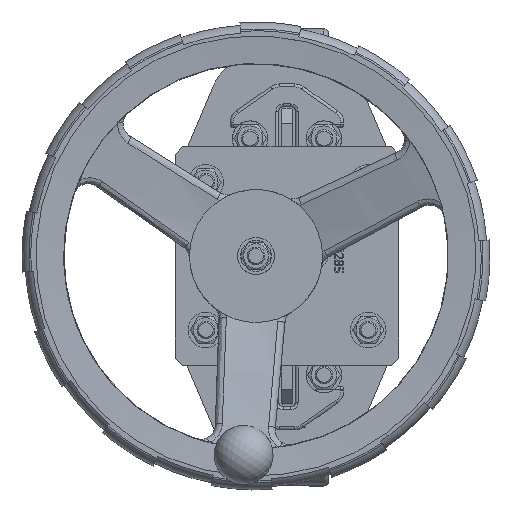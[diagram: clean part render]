
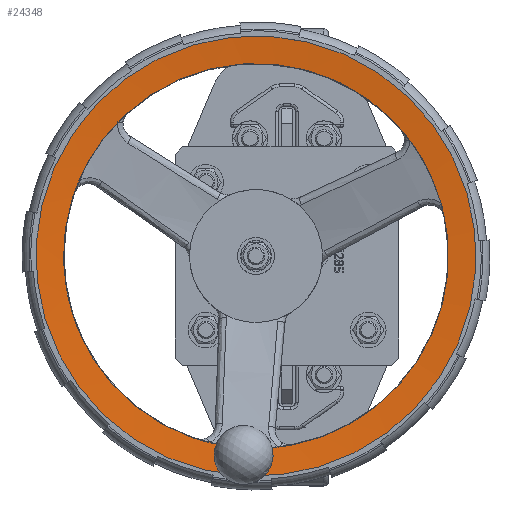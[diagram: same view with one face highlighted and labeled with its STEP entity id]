
A CAD part, top view. The second image highlights one B-rep face of the part: STEP entity #24348.
In plain terms, the highlighted conical face has half-angle 85 degrees and reference radius 139.655 mm.
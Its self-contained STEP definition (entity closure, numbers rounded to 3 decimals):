
#902=CONICAL_SURFACE('',#26106,139.654,1.484);
#1210=CIRCLE('',#26095,147.454);
#1214=CIRCLE('',#26107,130.309);
#1215=CIRCLE('',#26108,149.);
#1216=CIRCLE('',#26109,149.);
#1217=CIRCLE('',#26110,130.309);
#2709=(
BOUNDED_CURVE()
B_SPLINE_CURVE(2,(#39997,#39998,#39999),.UNSPECIFIED.,.F.,.F.)
B_SPLINE_CURVE_WITH_KNOTS((3,3),(30.11,30.242),
 .UNSPECIFIED.)
CURVE()
GEOMETRIC_REPRESENTATION_ITEM()
RATIONAL_B_SPLINE_CURVE((1.105,1.066,1.026))
REPRESENTATION_ITEM('')
);
#2710=(
BOUNDED_CURVE()
B_SPLINE_CURVE(2,(#40059,#40060,#40061),.UNSPECIFIED.,.F.,.F.)
B_SPLINE_CURVE_WITH_KNOTS((3,3),(0.043,0.176),
 .UNSPECIFIED.)
CURVE()
GEOMETRIC_REPRESENTATION_ITEM()
RATIONAL_B_SPLINE_CURVE((1.026,1.066,1.105))
REPRESENTATION_ITEM('')
);
#3023=FACE_OUTER_BOUND('',#4549,.T.);
#4549=EDGE_LOOP('',(#17126,#17127,#17128,#17129,#17130,#17131,#17132,#17133,
#17134,#17135,#17136));
#6068=B_SPLINE_CURVE_WITH_KNOTS('',3,(#39915,#39916,#39917,#39918,#39919,
#39920,#39921),.UNSPECIFIED.,.F.,.F.,(4,3,4),(-0.377,0.,0.165),
 .UNSPECIFIED.);
#6071=B_SPLINE_CURVE_WITH_KNOTS('',3,(#39932,#39933,#39934,#39935,#39936,
#39937),.UNSPECIFIED.,.F.,.F.,(4,2,4),(4.701,4.866,
5.243),.UNSPECIFIED.);
#6707=LINE('',#40066,#8323);
#8323=VECTOR('',#29860,139.654);
#10197=VERTEX_POINT('',#39864);
#10198=VERTEX_POINT('',#39865);
#10207=VERTEX_POINT('',#39913);
#10208=VERTEX_POINT('',#39914);
#10209=VERTEX_POINT('',#39926);
#10210=VERTEX_POINT('',#39931);
#10217=VERTEX_POINT('',#40063);
#10218=VERTEX_POINT('',#40065);
#10219=VERTEX_POINT('',#40067);
#12804=EDGE_CURVE('',#10197,#10198,#1210,.T.);
#12815=EDGE_CURVE('',#10207,#10208,#6068,.T.);
#12818=EDGE_CURVE('',#10210,#10209,#6071,.T.);
#12825=EDGE_CURVE('',#10208,#10197,#2709,.T.);
#12831=EDGE_CURVE('',#10198,#10210,#2710,.T.);
#12832=EDGE_CURVE('',#10209,#10217,#1214,.T.);
#12833=EDGE_CURVE('',#10217,#10218,#6707,.T.);
#12834=EDGE_CURVE('',#10219,#10218,#1215,.T.);
#12835=EDGE_CURVE('',#10218,#10219,#1216,.T.);
#12836=EDGE_CURVE('',#10217,#10207,#1217,.T.);
#17126=ORIENTED_EDGE('',*,*,#12815,.T.);
#17127=ORIENTED_EDGE('',*,*,#12825,.T.);
#17128=ORIENTED_EDGE('',*,*,#12804,.T.);
#17129=ORIENTED_EDGE('',*,*,#12831,.T.);
#17130=ORIENTED_EDGE('',*,*,#12818,.T.);
#17131=ORIENTED_EDGE('',*,*,#12832,.T.);
#17132=ORIENTED_EDGE('',*,*,#12833,.T.);
#17133=ORIENTED_EDGE('',*,*,#12834,.F.);
#17134=ORIENTED_EDGE('',*,*,#12835,.F.);
#17135=ORIENTED_EDGE('',*,*,#12833,.F.);
#17136=ORIENTED_EDGE('',*,*,#12836,.T.);
#24348=ADVANCED_FACE('',(#3023),#902,.F.);
#26095=AXIS2_PLACEMENT_3D('',#39866,#29826,#29827);
#26106=AXIS2_PLACEMENT_3D('',#40062,#29856,#29857);
#26107=AXIS2_PLACEMENT_3D('',#40064,#29858,#29859);
#26108=AXIS2_PLACEMENT_3D('',#40068,#29861,#29862);
#26109=AXIS2_PLACEMENT_3D('',#40069,#29863,#29864);
#26110=AXIS2_PLACEMENT_3D('',#40070,#29865,#29866);
#29826=DIRECTION('center_axis',(0.,0.,
-1.));
#29827=DIRECTION('ref_axis',(-0.833,0.553,0.));
#29856=DIRECTION('center_axis',(0.,0.,
1.));
#29857=DIRECTION('ref_axis',(-0.833,0.553,0.));
#29858=DIRECTION('center_axis',(0.,0.,
-1.));
#29859=DIRECTION('ref_axis',(-0.833,0.553,0.));
#29860=DIRECTION('',(0.83,-0.551,0.087));
#29861=DIRECTION('center_axis',(0.,0.,
-1.));
#29862=DIRECTION('ref_axis',(-0.833,0.553,0.));
#29863=DIRECTION('center_axis',(0.,0.,
-1.));
#29864=DIRECTION('ref_axis',(-0.833,0.553,0.));
#29865=DIRECTION('center_axis',(0.,0.,
-1.));
#29866=DIRECTION('ref_axis',(-0.833,0.553,0.));
#39864=CARTESIAN_POINT('',(-15.187,-147.339,559.5));
#39865=CARTESIAN_POINT('',(-45.128,-145.467,559.5));
#39866=CARTESIAN_POINT('Origin',(-21.,0.,
559.5));
#39913=CARTESIAN_POINT('',(-15.137,-130.177,558.));
#39914=CARTESIAN_POINT('',(-14.457,-135.673,558.483));
#39915=CARTESIAN_POINT('Ctrl Pts',(-15.137,-130.177,
558.));
#39916=CARTESIAN_POINT('Ctrl Pts',(-14.733,-131.445,558.112));
#39917=CARTESIAN_POINT('Ctrl Pts',(-14.507,-132.753,558.228));
#39918=CARTESIAN_POINT('Ctrl Pts',(-14.446,-134.004,
558.337));
#39919=CARTESIAN_POINT('Ctrl Pts',(-14.419,-134.552,
558.385));
#39920=CARTESIAN_POINT('Ctrl Pts',(-14.422,-135.11,
558.434));
#39921=CARTESIAN_POINT('Ctrl Pts',(-14.457,-135.673,558.483));
#39926=CARTESIAN_POINT('',(-43.038,-128.432,558.));
#39931=CARTESIAN_POINT('',(-44.398,-133.8,558.483));
#39932=CARTESIAN_POINT('Ctrl Pts',(-44.398,-133.8,
558.483));
#39933=CARTESIAN_POINT('Ctrl Pts',(-44.363,-133.237,
558.434));
#39934=CARTESIAN_POINT('Ctrl Pts',(-44.296,-132.683,
558.385));
#39935=CARTESIAN_POINT('Ctrl Pts',(-43.985,-130.909,
558.228));
#39936=CARTESIAN_POINT('Ctrl Pts',(-43.598,-129.64,
558.112));
#39937=CARTESIAN_POINT('Ctrl Pts',(-43.038,-128.432,
558.));
#39997=CARTESIAN_POINT('Ctrl Pts',(-14.457,-135.673,558.483));
#39998=CARTESIAN_POINT('Ctrl Pts',(-14.807,-141.267,558.97));
#39999=CARTESIAN_POINT('Ctrl Pts',(-15.187,-147.339,
559.5));
#40059=CARTESIAN_POINT('Ctrl Pts',(-45.128,-145.467,
559.5));
#40060=CARTESIAN_POINT('Ctrl Pts',(-44.748,-139.394,
558.97));
#40061=CARTESIAN_POINT('Ctrl Pts',(-44.398,-133.8,
558.483));
#40062=CARTESIAN_POINT('Origin',(-21.,0.,
558.818));
#40063=CARTESIAN_POINT('',(87.563,-72.072,558.));
#40064=CARTESIAN_POINT('Origin',(-21.,0.,
558.));
#40065=CARTESIAN_POINT('',(103.135,-82.41,559.635));
#40066=CARTESIAN_POINT('',(95.349,-77.241,558.818));
#40067=CARTESIAN_POINT('',(-145.135,82.41,559.635));
#40068=CARTESIAN_POINT('Origin',(-21.,0.,
559.635));
#40069=CARTESIAN_POINT('Origin',(-21.,0.,
559.635));
#40070=CARTESIAN_POINT('Origin',(-21.,0.,
558.));
